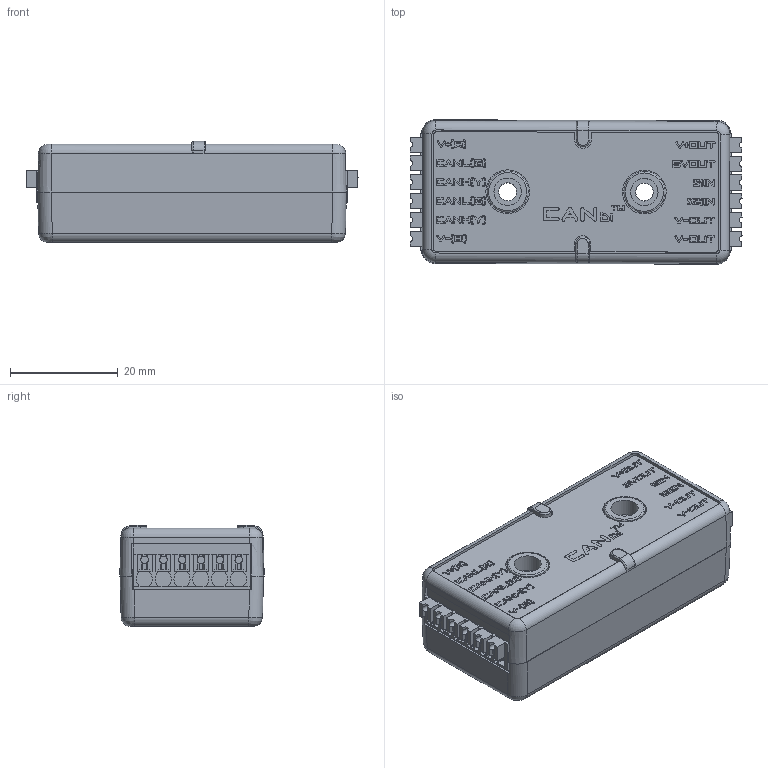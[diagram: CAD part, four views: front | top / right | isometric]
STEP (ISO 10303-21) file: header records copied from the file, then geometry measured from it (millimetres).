
FILE_DESCRIPTION (( 'STEP AP214' ), '1' );
FILE_NAME ('CANdi CAD.STEP', '2024-10-29T19:14:55', ( '' ), ( '' ), 'SwSTEP 2.0', 'SolidWorks 2021', '' );
FILE_SCHEMA (( 'AUTOMOTIVE_DESIGN' ));
Length unit declared in the file: inch
Products named in the file (1): CANdi CAD
Bounding box: 61.7 x 26.83 x 18.79 mm (x, y, z)
Surface area: 24148.6 mm2 (no closed solid volume)
Topology: 0 solids, 124 shells, 3576 faces, 9566 edges, 6312 vertices
Faces by surface type: plane 2591, bspline 523, cylinder 436, torus 14, cone 12
Full cylindrical faces by diameter (mm): 0.145 x1, 0.203 x59, 0.254 x17, 0.305 x8, 0.762 x5, 1.1 x24, 3.264 x2, 3.302 x8, 3.886 x2, 5.08 x4, 5.842 x2, 6.35 x2, 6.858 x6, 7.366 x2, 7.62 x2, 8.128 x2
Entity records: 175284 total; most frequent: CARTESIAN_POINT 42096, ORIENTED_EDGE 18703, DIRECTION 14986, EDGE_CURVE 9390, LINE 7266, VECTOR 7266, VERTEX_POINT 6294, EDGE_LOOP 4094
